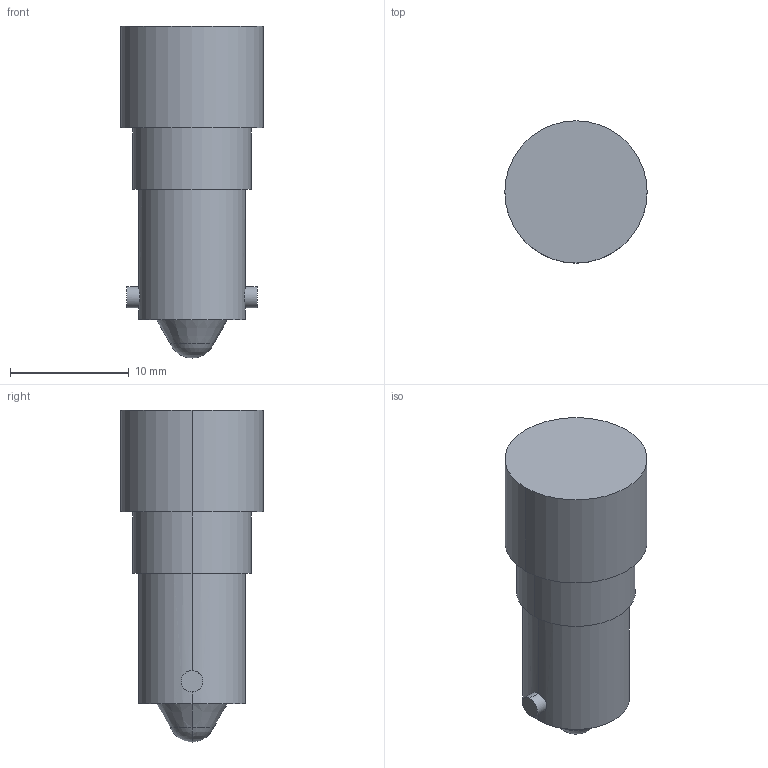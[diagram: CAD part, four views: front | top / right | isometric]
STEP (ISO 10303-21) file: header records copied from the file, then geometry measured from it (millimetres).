
FILE_DESCRIPTION( ( '' ), '1' );
FILE_NAME( '//expscmdclustefs.cadenas.external/client_exchange/iodir/jobs/output/wkb45454502_no0/STEP/229025_2_03.stp', '2012-05-30T15:57:27', ( '' ), ( '' ), ' ', ' ', ' ' );
FILE_SCHEMA( ( 'CONFIG_CONTROL_DESIGN' ) );
Length unit declared in the file: millimetre
Products named in the file (1): 1
Bounding box: 12 x 12 x 28 mm (x, y, z)
Volume: 2129.2 mm3; surface area: 1058.1 mm2
Topology: 1 solids, 1 shells, 20 faces, 44 edges, 27 vertices
Faces by surface type: cylinder 10, plane 6, sphere 2, cone 2
Entity records: 646 total; most frequent: CARTESIAN_POINT 160, DIRECTION 100, ORIENTED_EDGE 84, AXIS2_PLACEMENT_3D 43, EDGE_CURVE 42, VERTEX_POINT 27, EDGE_LOOP 23, CIRCLE 22
